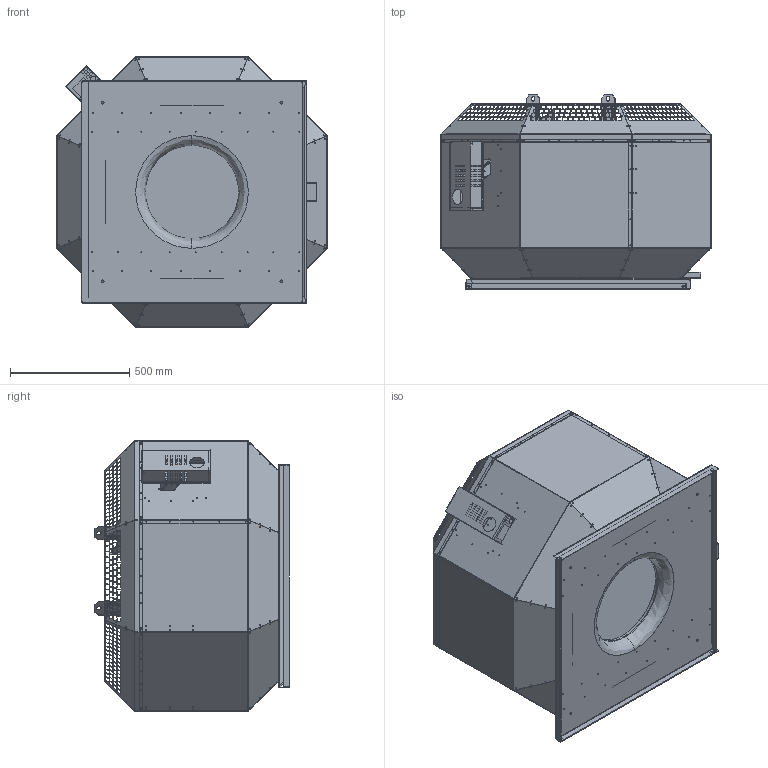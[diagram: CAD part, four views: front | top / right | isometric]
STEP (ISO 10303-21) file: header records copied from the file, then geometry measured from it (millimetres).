
FILE_DESCRIPTION (( 'STEP AP203' ), '1' );
FILE_NAME ('144886-01_DVN630D430_step.step', '2018-07-16T08:11:26', ( '' ), ( '' ), 'SwSTEP 2.0', 'SolidWorks 2017', '' );
FILE_SCHEMA (( 'CONFIG_CONTROL_DESIGN' ));
Products named in the file (1): 144886-01_DVN630D430_step
Bounding box: 1136 x 816.3 x 1136 mm (x, y, z)
Surface area: 9440130.1 mm2 (no closed solid volume)
Topology: 0 solids, 75 shells, 2009 faces, 16062 edges, 13234 vertices
Faces by surface type: plane 1608, cylinder 395, torus 4, bspline 2
Entity records: 152079 total; most frequent: CARTESIAN_POINT 32154, DIRECTION 21995, ORIENTED_EDGE 19839, EDGE_CURVE 16062, VECTOR 13917, LINE 13917, VERTEX_POINT 13234, EDGE_LOOP 5303
